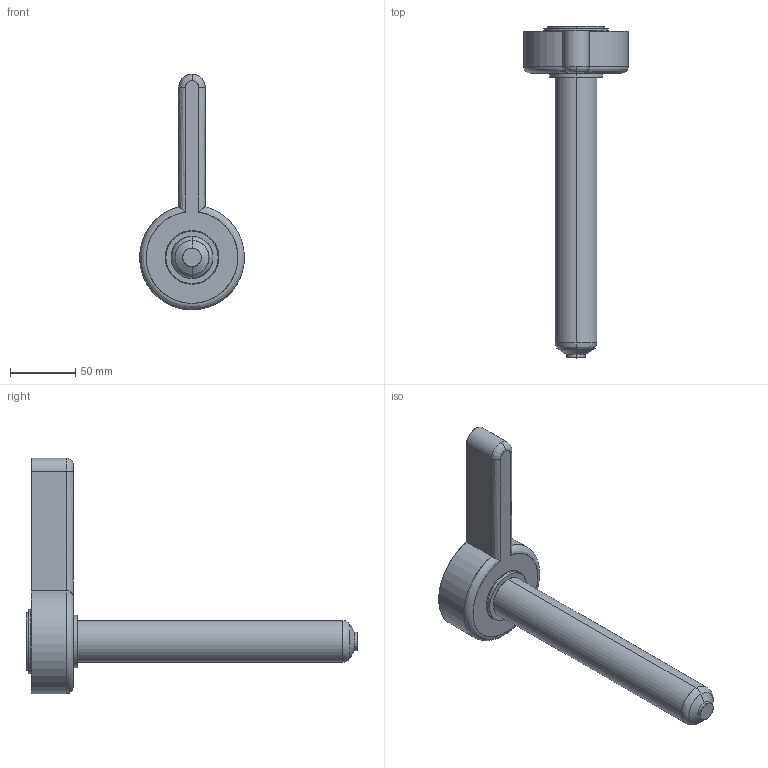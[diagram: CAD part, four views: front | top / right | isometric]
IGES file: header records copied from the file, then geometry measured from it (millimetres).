
Start section: SolidWorks IGES file using analytic representation for surfaces
Global section: file name: C:\Documents and Settings\ws-20\Desktop\TEM\Sede UGBE4505-S-A C-214 L-251 P-0.IGS; native system: SolidWorks 2012; preprocessor: SolidWorks 2012; author: ws-20; date: 120412.155701; units: millimetre
Bounding box: 79.97 x 253.54 x 180 mm (x, y, z)
Surface area: 49058.9 mm2 (no closed solid volume)
Topology: 0 solids, 0 shells, 34 faces, 788 edges, 788 vertices
Faces by surface type: revolution 21, bspline 13
